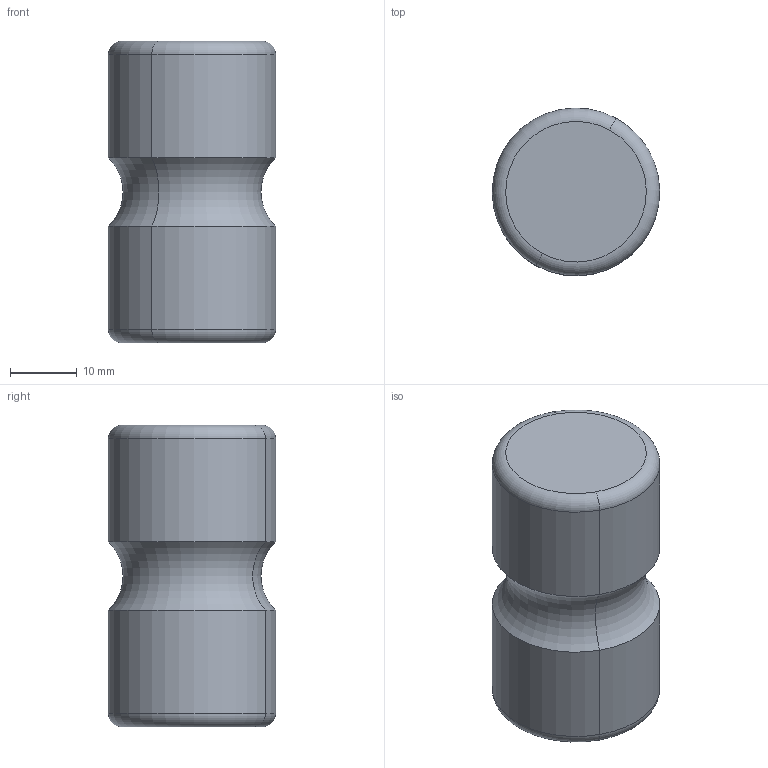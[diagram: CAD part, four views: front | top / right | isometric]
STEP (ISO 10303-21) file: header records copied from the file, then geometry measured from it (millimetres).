
FILE_DESCRIPTION(('CATIA V5 STEP Exchange'),'2;1');
FILE_NAME('C:\Users\d.catalano\Desktop\CATALOGO CAD\04 MOLLE\A519\A519-25.stp','2021-11-26T13:56:55+00:00',('none'),('none'),'CATIA Version 5 Release 19 SP 3 (IN-10)','CATIA V5 STEP AP203','none');
FILE_SCHEMA(('CONFIG_CONTROL_DESIGN'));
Length unit declared in the file: millimetre
Products named in the file (1): A519-25
Bounding box: 24.99 x 24.99 x 45 mm (x, y, z)
Volume: 20829.7 mm3; surface area: 4369.7 mm2
Topology: 1 solids, 1 shells, 12 faces, 22 edges, 12 vertices
Faces by surface type: torus 6, cylinder 4, plane 2
Entity records: 294 total; most frequent: ORIENTED_EDGE 44, CARTESIAN_POINT 41, DIRECTION 34, AXIS2_PLACEMENT_3D 25, EDGE_CURVE 22, CIRCLE 18, ADVANCED_FACE 12, EDGE_LOOP 12
